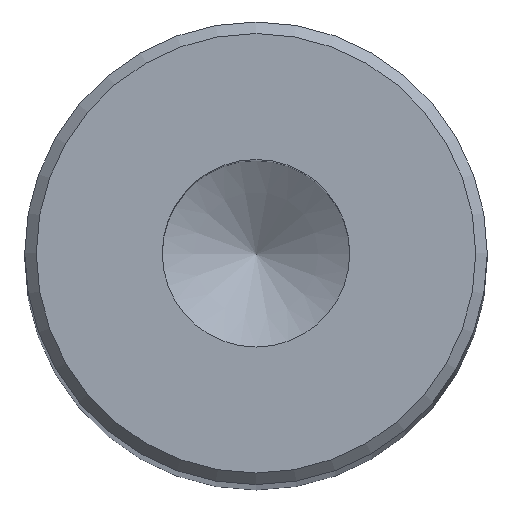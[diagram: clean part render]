
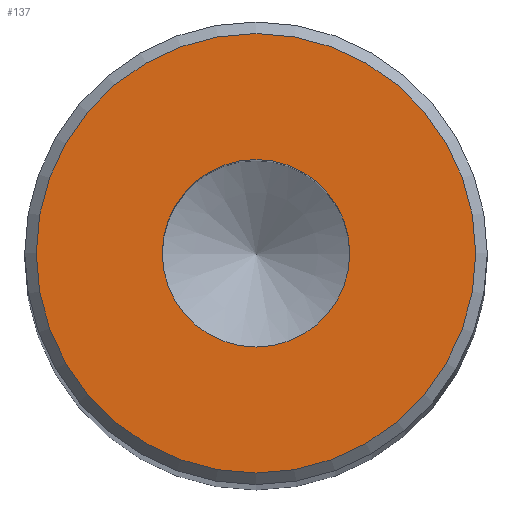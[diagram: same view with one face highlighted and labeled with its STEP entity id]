
A CAD part, top view. The second image highlights one B-rep face of the part: STEP entity #137.
In plain terms, the highlighted planar face has unit normal (0, 0, 1).
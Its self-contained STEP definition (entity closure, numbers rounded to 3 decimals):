
#16=FACE_BOUND('',#37,.T.);
#18=PLANE('',#176);
#26=FACE_OUTER_BOUND('',#36,.T.);
#36=EDGE_LOOP('',(#113));
#37=EDGE_LOOP('',(#114));
#62=CIRCLE('',#175,3.8);
#63=CIRCLE('',#177,1.621);
#72=VERTEX_POINT('',#250);
#73=VERTEX_POINT('',#254);
#86=EDGE_CURVE('',#72,#72,#62,.T.);
#88=EDGE_CURVE('',#73,#73,#63,.T.);
#113=ORIENTED_EDGE('',*,*,#86,.F.);
#114=ORIENTED_EDGE('',*,*,#88,.T.);
#137=ADVANCED_FACE('',(#26,#16),#18,.T.);
#175=AXIS2_PLACEMENT_3D('',#251,#208,#209);
#176=AXIS2_PLACEMENT_3D('',#253,#211,#212);
#177=AXIS2_PLACEMENT_3D('',#255,#213,#214);
#208=DIRECTION('center_axis',(0.,0.,-1.));
#209=DIRECTION('ref_axis',(-1.,0.,0.));
#211=DIRECTION('center_axis',(0.,0.,1.));
#212=DIRECTION('ref_axis',(1.,0.,0.));
#213=DIRECTION('center_axis',(0.,0.,-1.));
#214=DIRECTION('ref_axis',(1.,0.,0.));
#250=CARTESIAN_POINT('',(3.8,0.,0.));
#251=CARTESIAN_POINT('Origin',(0.,0.,0.));
#253=CARTESIAN_POINT('Origin',(0.,0.,0.));
#254=CARTESIAN_POINT('',(-1.621,0.,0.));
#255=CARTESIAN_POINT('Origin',(0.,0.,0.));
